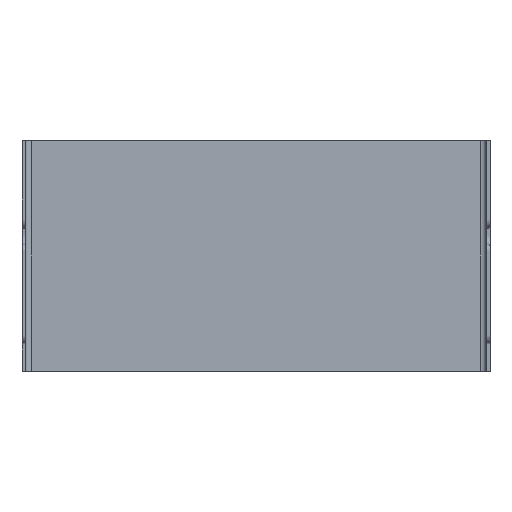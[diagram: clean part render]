
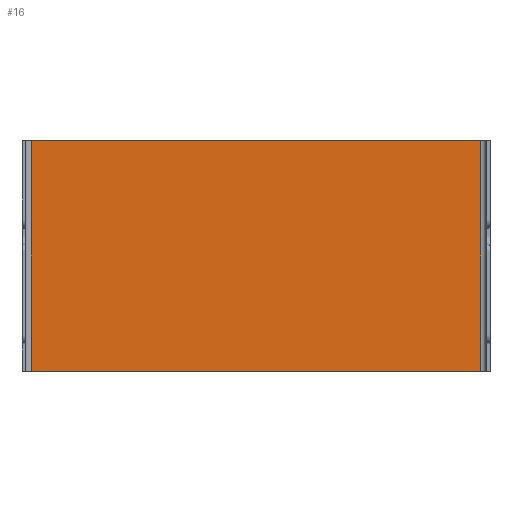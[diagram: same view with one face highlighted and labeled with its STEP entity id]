
A CAD part, left-side view. The second image highlights one B-rep face of the part: STEP entity #16.
In plain terms, the highlighted planar face has unit normal (-1, 0, 0).
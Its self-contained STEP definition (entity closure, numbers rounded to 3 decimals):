
#16=ADVANCED_FACE('',(#38),#291,.T.);
#38=FACE_OUTER_BOUND('',#60,.T.);
#60=EDGE_LOOP('',(#88,#89,#90,#91));
#88=ORIENTED_EDGE('',*,*,#175,.T.);
#89=ORIENTED_EDGE('',*,*,#176,.T.);
#90=ORIENTED_EDGE('',*,*,#177,.F.);
#91=ORIENTED_EDGE('',*,*,#173,.F.);
#173=EDGE_CURVE('',#262,#263,#217,.T.);
#175=EDGE_CURVE('',#262,#264,#219,.T.);
#176=EDGE_CURVE('',#264,#265,#220,.T.);
#177=EDGE_CURVE('',#263,#265,#221,.T.);
#217=(
BOUNDED_CURVE()
B_SPLINE_CURVE(1,(#669,#670),.UNSPECIFIED.,.F.,.F.)
B_SPLINE_CURVE_WITH_KNOTS((2,2),(0.,100.),.UNSPECIFIED.)
CURVE()
GEOMETRIC_REPRESENTATION_ITEM()
RATIONAL_B_SPLINE_CURVE((1.,1.))
REPRESENTATION_ITEM('')
);
#219=(
BOUNDED_CURVE()
B_SPLINE_CURVE(2,(#674,#675,#676),.UNSPECIFIED.,.F.,.F.)
B_SPLINE_CURVE_WITH_KNOTS((3,3),(375.101,492.898),
 .UNSPECIFIED.)
CURVE()
GEOMETRIC_REPRESENTATION_ITEM()
RATIONAL_B_SPLINE_CURVE((1.,1.,1.))
REPRESENTATION_ITEM('')
);
#220=(
BOUNDED_CURVE()
B_SPLINE_CURVE(1,(#677,#678),.UNSPECIFIED.,.F.,.F.)
B_SPLINE_CURVE_WITH_KNOTS((2,2),(0.,100.),.UNSPECIFIED.)
CURVE()
GEOMETRIC_REPRESENTATION_ITEM()
RATIONAL_B_SPLINE_CURVE((1.,1.))
REPRESENTATION_ITEM('')
);
#221=(
BOUNDED_CURVE()
B_SPLINE_CURVE(2,(#679,#680,#681),.UNSPECIFIED.,.F.,.F.)
B_SPLINE_CURVE_WITH_KNOTS((3,3),(375.101,492.898),
 .UNSPECIFIED.)
CURVE()
GEOMETRIC_REPRESENTATION_ITEM()
RATIONAL_B_SPLINE_CURVE((1.,1.,1.))
REPRESENTATION_ITEM('')
);
#262=VERTEX_POINT('',#638);
#263=VERTEX_POINT('',#639);
#264=VERTEX_POINT('',#640);
#265=VERTEX_POINT('',#641);
#291=PLANE('',#392);
#392=AXIS2_PLACEMENT_3D('',#430,#411,$);
#411=DIRECTION('',(-1.,0.,0.));
#430=CARTESIAN_POINT('',(0.,97.5,0.));
#638=CARTESIAN_POINT('',(0.,97.5,0.));
#639=CARTESIAN_POINT('',(0.,97.5,100.));
#640=CARTESIAN_POINT('',(0.,-97.5,0.));
#641=CARTESIAN_POINT('',(0.,-97.5,100.));
#669=CARTESIAN_POINT('',(0.,97.5,0.));
#670=CARTESIAN_POINT('',(0.,97.5,100.));
#674=CARTESIAN_POINT('',(0.,97.5,0.));
#675=CARTESIAN_POINT('',(0.,0.,0.));
#676=CARTESIAN_POINT('',(0.,-97.5,0.));
#677=CARTESIAN_POINT('',(0.,-97.5,0.));
#678=CARTESIAN_POINT('',(0.,-97.5,100.));
#679=CARTESIAN_POINT('',(0.,97.5,100.));
#680=CARTESIAN_POINT('',(0.,0.,100.));
#681=CARTESIAN_POINT('',(0.,-97.5,100.));
